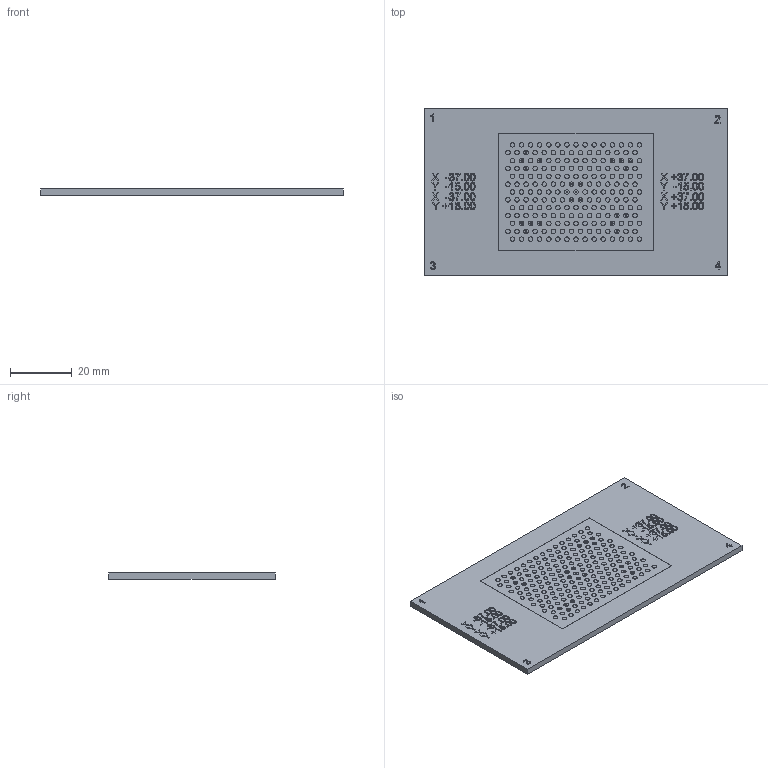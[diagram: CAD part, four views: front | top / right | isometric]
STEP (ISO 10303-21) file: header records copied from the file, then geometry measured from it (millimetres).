
FILE_DESCRIPTION(/* description */ (''),/* implementation_level */ '2;1');
FILE_NAME(/* name */ 'C:\#Vault-WorkDir\Konstruktions-Dokumente\Projekte\VISOR\Katalogzeichnungen\153-13573_ZCP 50-13x15-X01_NEU.stp',/* time_stamp */ '2022-06-23T12:22:28+02:00',/* author */ ('SensoPart'),/* organization */ ('SensoPart'),/* preprocessor_version */ 'ST-DEVELOPER v18.1',/* originating_system */ 'Autodesk Inventor 2022',/* authorisation */ '');
FILE_SCHEMA (('AUTOMOTIVE_DESIGN { 1 0 10303 214 3 1 1 }'));
Length unit declared in the file: millimetre
Products named in the file (1): GH-ENG-0028061
Bounding box: 98 x 54 x 2.05 mm (x, y, z)
Volume: 10666.1 mm3; surface area: 11273.4 mm2
Topology: 1 solids, 1 shells, 1129 faces, 2517 edges, 1695 vertices
Faces by surface type: plane 591, bspline 321, cylinder 217
Full cylindrical faces by diameter (mm): 0.489 x22, 1.468 x195
Entity records: 33722 total; most frequent: CARTESIAN_POINT 9330, ORIENTED_EDGE 4992, DIRECTION 3930, EDGE_CURVE 2496, VERTEX_POINT 1664, EDGE_LOOP 1424, LINE 1420, VECTOR 1420
